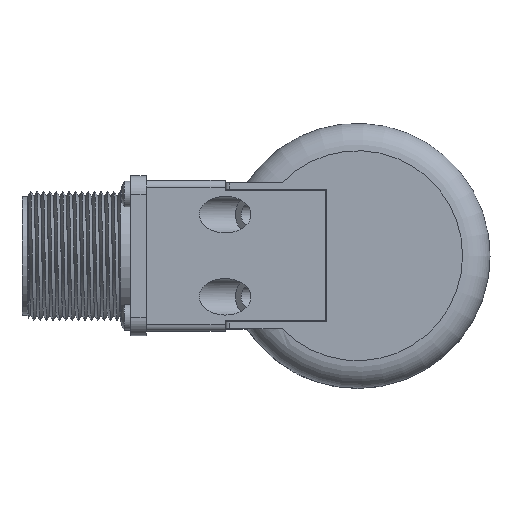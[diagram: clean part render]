
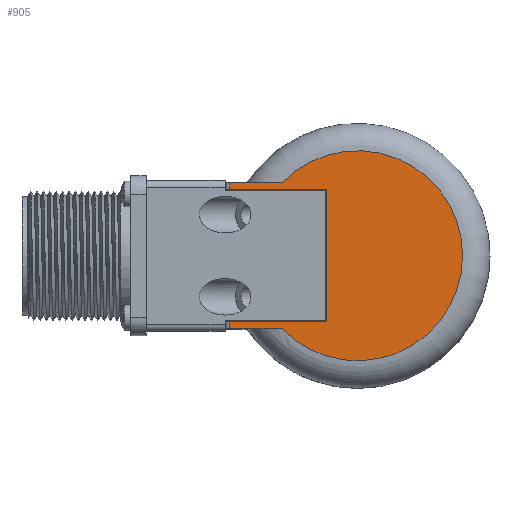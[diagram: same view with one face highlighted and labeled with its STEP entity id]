
A CAD part, top view. The second image highlights one B-rep face of the part: STEP entity #905.
In plain terms, the highlighted planar face has unit normal (0, 0, 1).
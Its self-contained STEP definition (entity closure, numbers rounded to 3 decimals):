
#905 = ADVANCED_FACE( '', ( #2241 ), #2242, .T. );
#2241 = FACE_OUTER_BOUND( '', #6759, .T. );
#2242 = PLANE( '', #6760 );
#6759 = EDGE_LOOP( '', ( #17722, #17723, #17724, #17725, #17726, #17727, #17728, #17729 ) );
#6760 = AXIS2_PLACEMENT_3D( '', #17730, #17731, #17732 );
#17722 = ORIENTED_EDGE( '', *, *, #21318, .T. );
#17723 = ORIENTED_EDGE( '', *, *, #21395, .T. );
#17724 = ORIENTED_EDGE( '', *, *, #21396, .T. );
#17725 = ORIENTED_EDGE( '', *, *, #21397, .T. );
#17726 = ORIENTED_EDGE( '', *, *, #21398, .F. );
#17727 = ORIENTED_EDGE( '', *, *, #20870, .F. );
#17728 = ORIENTED_EDGE( '', *, *, #21399, .T. );
#17729 = ORIENTED_EDGE( '', *, *, #21400, .T. );
#17730 = CARTESIAN_POINT( '', ( -29., 29., 49.1 ) );
#17731 = DIRECTION( '', ( 0., 0., 1. ) );
#17732 = DIRECTION( '', ( 0., -1., 0. ) );
#20870 = EDGE_CURVE( '', #22607, #22609, #22610, .T. );
#21318 = EDGE_CURVE( '', #23335, #23339, #23341, .T. );
#21395 = EDGE_CURVE( '', #23339, #23463, #23464, .T. );
#21396 = EDGE_CURVE( '', #23463, #23465, #23466, .T. );
#21397 = EDGE_CURVE( '', #23465, #23467, #23468, .T. );
#21398 = EDGE_CURVE( '', #22609, #23467, #23469, .T. );
#21399 = EDGE_CURVE( '', #22607, #23470, #23471, .T. );
#21400 = EDGE_CURVE( '', #23470, #23335, #23472, .T. );
#22607 = VERTEX_POINT( '', #25358 );
#22609 = VERTEX_POINT( '', #25360 );
#22610 = LINE( '', #25361, #25362 );
#23335 = VERTEX_POINT( '', #27593 );
#23339 = VERTEX_POINT( '', #27609 );
#23341 = CIRCLE( '', #27623, 23. );
#23463 = VERTEX_POINT( '', #27786 );
#23464 = LINE( '', #27787, #27788 );
#23465 = VERTEX_POINT( '', #27789 );
#23466 = LINE( '', #27790, #27791 );
#23467 = VERTEX_POINT( '', #27792 );
#23468 = LINE( '', #27793, #27794 );
#23469 = LINE( '', #27795, #27796 );
#23470 = VERTEX_POINT( '', #27797 );
#23471 = LINE( '', #27798, #27799 );
#23472 = LINE( '', #27800, #27801 );
#25358 = CARTESIAN_POINT( '', ( -28., -14.5, 49.1 ) );
#25360 = CARTESIAN_POINT( '', ( -6.7, -14.5, 49.1 ) );
#25361 = CARTESIAN_POINT( '', ( -29., -14.5, 49.1 ) );
#25362 = VECTOR( '', #31762, 1000. );
#27593 = CARTESIAN_POINT( '', ( -16.523, -16., 49.1 ) );
#27609 = CARTESIAN_POINT( '', ( -16.523, 16., 49.1 ) );
#27623 = AXIS2_PLACEMENT_3D( '', #32225, #32226, #32227 );
#27786 = CARTESIAN_POINT( '', ( -28., 16., 49.1 ) );
#27787 = CARTESIAN_POINT( '', ( -29., 16., 49.1 ) );
#27788 = VECTOR( '', #32334, 1000. );
#27789 = CARTESIAN_POINT( '', ( -28., 14.5, 49.1 ) );
#27790 = CARTESIAN_POINT( '', ( -28., 14.5, 49.1 ) );
#27791 = VECTOR( '', #32335, 1000. );
#27792 = CARTESIAN_POINT( '', ( -6.7, 14.5, 49.1 ) );
#27793 = CARTESIAN_POINT( '', ( -29., 14.5, 49.1 ) );
#27794 = VECTOR( '', #32336, 1000. );
#27795 = CARTESIAN_POINT( '', ( -6.7, -14.5, 49.1 ) );
#27796 = VECTOR( '', #32337, 1000. );
#27797 = CARTESIAN_POINT( '', ( -28., -16., 49.1 ) );
#27798 = CARTESIAN_POINT( '', ( -28., -16., 49.1 ) );
#27799 = VECTOR( '', #32338, 1000. );
#27800 = CARTESIAN_POINT( '', ( -24.187, -16., 49.1 ) );
#27801 = VECTOR( '', #32339, 1000. );
#31762 = DIRECTION( '', ( 1., 0., 0. ) );
#32225 = CARTESIAN_POINT( '', ( 0., 0., 49.1 ) );
#32226 = DIRECTION( '', ( 0., 0., 1. ) );
#32227 = DIRECTION( '', ( 0., -1., 0. ) );
#32334 = DIRECTION( '', ( -1., 0., 0. ) );
#32335 = DIRECTION( '', ( 0., -1., 0. ) );
#32336 = DIRECTION( '', ( 1., 0., 0. ) );
#32337 = DIRECTION( '', ( 0., 1., 0. ) );
#32338 = DIRECTION( '', ( 0., -1., 0. ) );
#32339 = DIRECTION( '', ( 1., 0., 0. ) );
